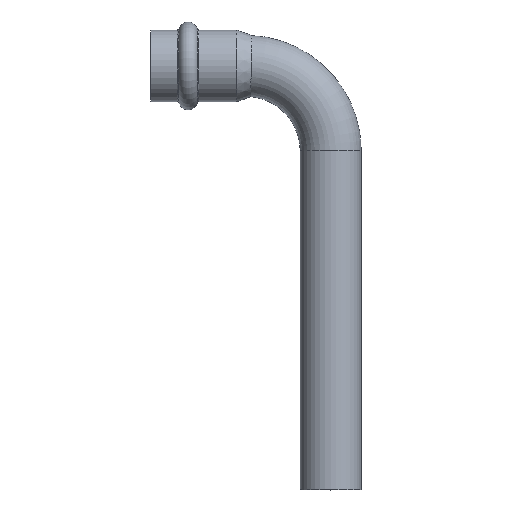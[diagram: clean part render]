
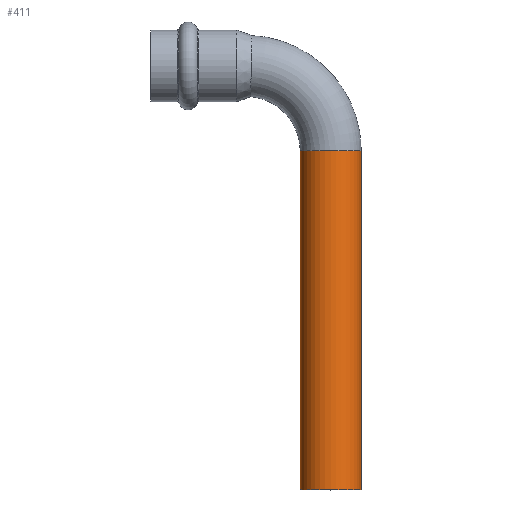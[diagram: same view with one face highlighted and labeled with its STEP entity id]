
A CAD part, top view. The second image highlights one B-rep face of the part: STEP entity #411.
In plain terms, the highlighted cylindrical face has radius 9 mm (diameter 18 mm), a full revolution.
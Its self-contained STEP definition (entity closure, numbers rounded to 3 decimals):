
#384=CARTESIAN_POINT('',(25.,-25.0,0.0));
#385=DIRECTION('',(0.,-1.0,0.0));
#386=DIRECTION('',(-1.0,0.0,0.0));
#387=AXIS2_PLACEMENT_3D('',#384,#385,#386);
#388=CYLINDRICAL_SURFACE('',#387,9.);
#389=CARTESIAN_POINT('',(34.0,-125.0,0.));
#390=VERTEX_POINT('',#389);
#391=CARTESIAN_POINT('',(25.,-125.0,0.0));
#392=DIRECTION('',(0.0,1.0,0.0));
#393=DIRECTION('',(-1.0,0.0,0.0));
#394=AXIS2_PLACEMENT_3D('',#391,#392,#393);
#395=CIRCLE('',#394,9.);
#396=EDGE_CURVE('',#390,#390,#395,.T.);
#397=ORIENTED_EDGE('',*,*,#396,.T.);
#398=EDGE_LOOP('',(#397));
#399=FACE_OUTER_BOUND('',#398,.T.);
#400=CARTESIAN_POINT('',(34.0,-25.,0.));
#401=VERTEX_POINT('',#400);
#402=CARTESIAN_POINT('',(25.,-25.0,0.0));
#403=DIRECTION('',(0.0,1.0,0.0));
#404=DIRECTION('',(-1.0,0.0,0.0));
#405=AXIS2_PLACEMENT_3D('',#402,#403,#404);
#406=CIRCLE('',#405,9.);
#407=EDGE_CURVE('',#401,#401,#406,.T.);
#408=ORIENTED_EDGE('',*,*,#407,.F.);
#409=EDGE_LOOP('',(#408));
#410=FACE_BOUND('',#409,.T.);
#411=ADVANCED_FACE('',(#399,#410),#388,.T.);
